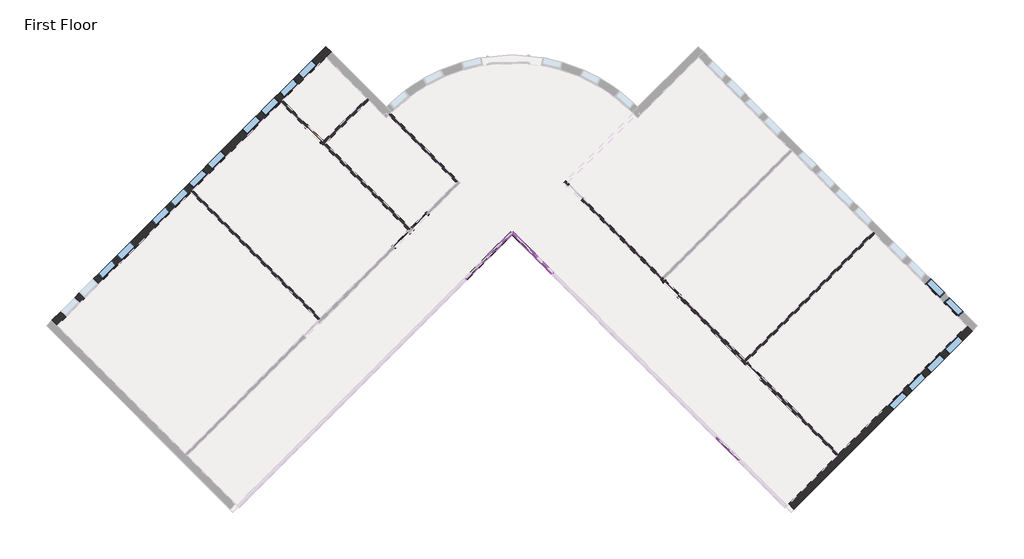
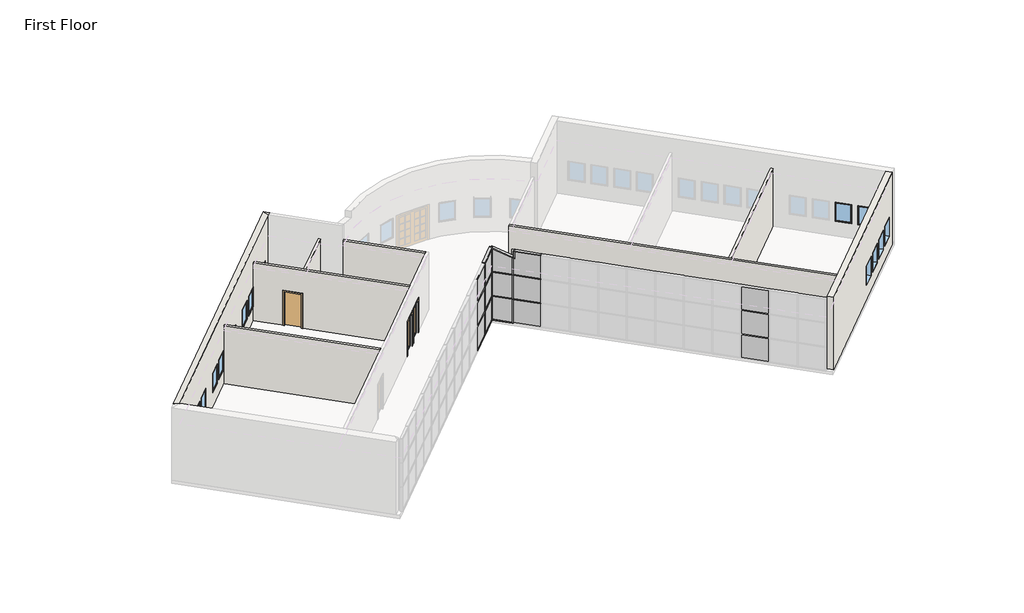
# One storey, part 3 of 4: 26 members, 16 windows, 15 plates, 8 walls, 5 doors.
"""IFC4 building model written with IfcOpenShell, lengths in millimetres."""

from ifc_helpers import new_model, si_unit, point, frame_2d, origin, origin_with_axes, place, context, project, spatial, polyline, circle_curve, trimmed, segment, composite_curve, outline, extrude, faceted_brep, transform, mapped, element, save
from components import m_single_flush_0915_x_2134mm_83e8e835, m_single_glass_1_0915_x_2134mm_fb3287b7, m_single_glass_1_0915_x_2134mm_4e5e1233, rectangular_mullion_50_x_150mm_20f04808, rectangular_mullion_50_x_150mm_40297ad3, rectangular_mullion_50_x_150mm_25842354, rectangular_mullion_50_x_150mm_f494fff1, rectangular_mullion_50_x_150mm_2bb03180, rectangular_mullion_50_x_150mm_5da8f88f, rectangular_mullion_50_x_150mm_a88ac5a8, rectangular_mullion_50_x_150mm_4d330a12, rectangular_mullion_50_x_150mm_0b48c596, rectangular_mullion_50_x_150mm_c3f78bae, rectangular_mullion_50_x_150mm_4f5b6fb6, rectangular_mullion_50_x_150mm_1a5d4ec7, rectangular_mullion_50_x_150mm_d2079c38, rectangular_mullion_50_x_150mm_e2de7342, system_panel_glazed_3c3c243d, system_panel_glazed_a417ca2b, system_panel_glazed_437d720c, system_panel_glazed_7c4ff273, system_panel_glazed_1065fb32, system_panel_glazed_85fb0d8e, system_panel_solid_49e066f7, system_panel_solid_a570f427, system_panel_solid_e7212ce5, system_panel_solid_7245e66f, m_fixed_0915_x_1220mm_bde29121, m_fixed_0915_x_1220mm_2a2509e7

model = new_model("IFC4")

# Units and contexts
model_context = context("Model", 3, world=origin())
ifc_project = project(units=[si_unit("LENGTHUNIT", "METRE", prefix="MILLI")], contexts=[model_context])

# Site, building, storey
site = spatial("IfcSite", under=ifc_project)
building = spatial("IfcBuilding", under=site)
storey = spatial("IfcBuildingStorey", under=building, Name="First Floor", Elevation=0.0)

# Doors
placement = place(None, origin())
m_single_flush_0915_x_2134mm_shape = m_single_flush_0915_x_2134mm_83e8e835(model_context)
element("IfcDoor", 1, ObjectType="M_Single-Flush : 0915 x 2134mm", at=placement, inside=storey, context=model_context, shape_type="MappedRepresentation", body=[
    mapped(m_single_flush_0915_x_2134mm_shape, transform((-10762.6979297, 6563.7995594, 0.0), x_axis=(0.7071067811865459, -0.7071067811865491, 0.0), y_axis=(0.7071067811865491, 0.7071067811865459, 0.0), z_axis=(0.0, 0.0, 1.0))),
])
m_single_glass_1_0915_x_2134mm_shape = m_single_glass_1_0915_x_2134mm_fb3287b7(model_context)
element("IfcDoor", 2, ObjectType="M_Single-Glass 1 : 0915 x 2134mm", at=placement, inside=storey, context=model_context, shape_type="MappedRepresentation", body=[
    mapped(m_single_glass_1_0915_x_2134mm_shape, transform((-6731.4821701, 1669.9135268, 0.0), x_axis=(0.7071067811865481, 0.7071067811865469, 0.0), y_axis=(-0.7071067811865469, 0.7071067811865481, 0.0), z_axis=(0.0, 0.0, 1.0))),
])
m_single_glass_1_0915_x_2134mm_2_shape = m_single_glass_1_0915_x_2134mm_4e5e1233(model_context)
element("IfcDoor", 3, ObjectType="M_Single-Glass 1 : 0915 x 2134mm", at=placement, inside=storey, context=model_context, shape_type="MappedRepresentation", body=[
    mapped(m_single_glass_1_0915_x_2134mm_2_shape, transform((-5868.8118971, 2532.5837999, 0.0), x_axis=(-0.7071067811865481, -0.7071067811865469, 0.0), y_axis=(0.7071067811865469, -0.7071067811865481, 0.0), z_axis=(0.0, 0.0, 1.0))),
])
element("IfcDoor", 4, ObjectType="M_Single-Glass 1 : 0915 x 2134mm", at=placement, inside=storey, context=model_context, shape_type="MappedRepresentation", body=[
    mapped(m_single_glass_1_0915_x_2134mm_2_shape, transform((5790.8485946, -591.9442895, 0.0), x_axis=(-0.7071067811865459, 0.7071067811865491, 0.0), y_axis=(-0.7071067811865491, -0.7071067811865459, 0.0), z_axis=(0.0, 0.0, 1.0))),
])
element("IfcDoor", 5, ObjectType="M_Single-Glass 1 : 0915 x 2134mm", at=placement, inside=storey, context=model_context, shape_type="MappedRepresentation", body=[
    mapped(m_single_glass_1_0915_x_2134mm_2_shape, transform((9606.3967859, -4407.4924808, 0.0), x_axis=(-0.7071067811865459, 0.7071067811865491, 0.0), y_axis=(-0.7071067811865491, -0.7071067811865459, 0.0), z_axis=(0.0, 0.0, 1.0))),
])

# Members
rectangular_mullion_50_x_150mm_shape = rectangular_mullion_50_x_150mm_20f04808(model_context)
element("IfcMember", 6, ObjectType="Rectangular Mullion : 50 x 150mm", at=placement, inside=storey, context=model_context, shape_type="MappedRepresentation", body=[
    mapped(rectangular_mullion_50_x_150mm_shape, transform((-1636.601035, 1959.296977, 0.0), x_axis=(0.0, 0.0, -1.0), y_axis=(-0.7071067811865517, 0.7071067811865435, 0.0), z_axis=(0.7071067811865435, 0.7071067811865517, 0.0))),
])
rectangular_mullion_50_x_150mm_2_shape = rectangular_mullion_50_x_150mm_40297ad3(model_context)
element("IfcMember", 7, ObjectType="Rectangular Mullion : 50 x 150mm", at=placement, inside=storey, context=model_context, shape_type="MappedRepresentation", body=[
    mapped(rectangular_mullion_50_x_150mm_2_shape, transform((-2678.8764307, 917.0215813, 0.0), x_axis=(-0.7071067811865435, -0.7071067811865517, 0.0), y_axis=(-0.7071067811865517, 0.7071067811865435, 0.0), z_axis=(0.0, 0.0, -1.0))),
])
element("IfcMember", 8, ObjectType="Rectangular Mullion : 50 x 150mm", at=placement, inside=storey, context=model_context, shape_type="MappedRepresentation", body=[
    mapped(rectangular_mullion_50_x_150mm_2_shape, transform((-771.102335, 1164.5089552, 0.0), x_axis=(-0.7071067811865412, 0.7071067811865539, 0.0), y_axis=(0.7071067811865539, 0.7071067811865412, 0.0), z_axis=(0.0, 0.0, -1.0))),
])
rectangular_mullion_50_x_150mm_3_shape = rectangular_mullion_50_x_150mm_25842354(model_context)
element("IfcMember", 9, ObjectType="Rectangular Mullion : 50 x 150mm", at=placement, inside=storey, context=model_context, shape_type="MappedRepresentation", body=[
    mapped(rectangular_mullion_50_x_150mm_3_shape, transform((-2661.1987611, 934.6992509, 1524.0), x_axis=(0.0, 0.0, 1.0), y_axis=(-0.7071067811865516, 0.7071067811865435, 0.0), z_axis=(-0.7071067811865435, -0.7071067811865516, 0.0))),
])
element("IfcMember", 10, ObjectType="Rectangular Mullion : 50 x 150mm", at=placement, inside=storey, context=model_context, shape_type="MappedRepresentation", body=[
    mapped(rectangular_mullion_50_x_150mm_3_shape, transform((-2661.1987611, 934.6992509, 3048.0), x_axis=(0.0, 0.0, 1.0), y_axis=(-0.7071067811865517, 0.7071067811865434, 0.0), z_axis=(-0.7071067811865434, -0.7071067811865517, 0.0))),
])
rectangular_mullion_50_x_150mm_4_shape = rectangular_mullion_50_x_150mm_f494fff1(model_context)
element("IfcMember", 11, ObjectType="Rectangular Mullion : 50 x 150mm", at=placement, inside=storey, context=model_context, shape_type="MappedRepresentation", body=[
    mapped(rectangular_mullion_50_x_150mm_4_shape, transform((-753.4246655, 1146.8312856, 1524.0), x_axis=(0.0, 0.0, 1.0), y_axis=(0.7071067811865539, 0.7071067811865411, 0.0), z_axis=(-0.7071067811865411, 0.7071067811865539, 0.0))),
])
element("IfcMember", 12, ObjectType="Rectangular Mullion : 50 x 150mm", at=placement, inside=storey, context=model_context, shape_type="MappedRepresentation", body=[
    mapped(rectangular_mullion_50_x_150mm_4_shape, transform((-753.4246655, 1146.8312856, 3048.0), x_axis=(0.0, 0.0, 1.0), y_axis=(0.7071067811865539, 0.7071067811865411, 0.0), z_axis=(-0.7071067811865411, 0.7071067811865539, 0.0))),
])
rectangular_mullion_50_x_150mm_5_shape = rectangular_mullion_50_x_150mm_2bb03180(model_context)
element("IfcMember", 13, ObjectType="Rectangular Mullion : 50 x 150mm", at=placement, inside=storey, context=model_context, shape_type="MappedRepresentation", body=[
    mapped(rectangular_mullion_50_x_150mm_5_shape, transform((-1565.8903569, 1959.296977, 1524.0), x_axis=(0.0, 0.0, 1.0), y_axis=(0.707106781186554, 0.707106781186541, 0.0), z_axis=(-0.707106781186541, 0.707106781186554, 0.0))),
])
element("IfcMember", 14, ObjectType="Rectangular Mullion : 50 x 150mm", at=placement, inside=storey, context=model_context, shape_type="MappedRepresentation", body=[
    mapped(rectangular_mullion_50_x_150mm_5_shape, transform((-1565.8903569, 1959.296977, 3048.0), x_axis=(0.0, 0.0, 1.0), y_axis=(0.707106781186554, 0.707106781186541, 0.0), z_axis=(-0.707106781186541, 0.707106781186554, 0.0))),
])
rectangular_mullion_50_x_150mm_6_shape = rectangular_mullion_50_x_150mm_5da8f88f(model_context)
element("IfcMember", 15, ObjectType="Rectangular Mullion : 50 x 150mm", at=placement, inside=storey, context=model_context, shape_type="MappedRepresentation", body=[
    mapped(rectangular_mullion_50_x_150mm_6_shape, transform((-2696.5541002, 899.3439118, 0.0), x_axis=(0.0, 0.0, -1.0), y_axis=(-0.7071067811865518, 0.7071067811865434, 0.0), z_axis=(0.7071067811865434, 0.7071067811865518, 0.0))),
])
rectangular_mullion_50_x_150mm_7_shape = rectangular_mullion_50_x_150mm_a88ac5a8(model_context)
element("IfcMember", 16, ObjectType="Rectangular Mullion : 50 x 150mm", at=placement, inside=storey, context=model_context, shape_type="MappedRepresentation", body=[
    mapped(rectangular_mullion_50_x_150mm_7_shape, transform((-788.7800045, 1182.1866247, 0.0), x_axis=(0.0, 0.0, -1.0), y_axis=(0.707106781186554, 0.7071067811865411, 0.0), z_axis=(0.707106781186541, -0.7071067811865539, 0.0))),
])
element("IfcMember", 17, ObjectType="Rectangular Mullion : 50 x 150mm", at=placement, inside=storey, context=model_context, shape_type="MappedRepresentation", body=[
    mapped(rectangular_mullion_50_x_150mm_shape, transform((-2661.1987611, 934.6992509, 4572.0), x_axis=(0.0, 0.0, 1.0), y_axis=(-0.7071067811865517, 0.7071067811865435, 0.0), z_axis=(-0.7071067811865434, -0.7071067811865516, 0.0))),
])
element("IfcMember", 18, ObjectType="Rectangular Mullion : 50 x 150mm", at=placement, inside=storey, context=model_context, shape_type="MappedRepresentation", body=[
    mapped(rectangular_mullion_50_x_150mm_2_shape, transform((-2678.8764307, 917.0215813, 1524.0), x_axis=(-0.7071067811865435, -0.7071067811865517, 0.0), y_axis=(-0.7071067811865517, 0.7071067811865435, 0.0), z_axis=(0.0, 0.0, -1.0))),
])
element("IfcMember", 19, ObjectType="Rectangular Mullion : 50 x 150mm", at=placement, inside=storey, context=model_context, shape_type="MappedRepresentation", body=[
    mapped(rectangular_mullion_50_x_150mm_2_shape, transform((-771.102335, 1164.5089552, 1524.0), x_axis=(-0.7071067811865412, 0.7071067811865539, 0.0), y_axis=(0.7071067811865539, 0.7071067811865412, 0.0), z_axis=(0.0, 0.0, -1.0))),
])
element("IfcMember", 20, ObjectType="Rectangular Mullion : 50 x 150mm", at=placement, inside=storey, context=model_context, shape_type="MappedRepresentation", body=[
    mapped(rectangular_mullion_50_x_150mm_2_shape, transform((-2678.8764307, 917.0215813, 3048.0), x_axis=(-0.7071067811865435, -0.7071067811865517, 0.0), y_axis=(-0.7071067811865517, 0.7071067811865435, 0.0), z_axis=(0.0, 0.0, -1.0))),
])
rectangular_mullion_50_x_150mm_8_shape = rectangular_mullion_50_x_150mm_4d330a12(model_context)
element("IfcMember", 21, ObjectType="Rectangular Mullion : 50 x 150mm", at=placement, inside=storey, context=model_context, shape_type="MappedRepresentation", body=[
    mapped(rectangular_mullion_50_x_150mm_8_shape, transform((-1601.2456959, 1994.6523161, 4572.0), x_axis=(0.7071067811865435, 0.7071067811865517, 0.0), y_axis=(-0.7071067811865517, 0.7071067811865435, 0.0), z_axis=(0.0, 0.0, 1.0))),
])
element("IfcMember", 22, ObjectType="Rectangular Mullion : 50 x 150mm", at=placement, inside=storey, context=model_context, shape_type="MappedRepresentation", body=[
    mapped(rectangular_mullion_50_x_150mm_8_shape, transform((-1601.2456959, 1994.6523161, 0.0), x_axis=(-0.7071067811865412, 0.7071067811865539, 0.0), y_axis=(0.7071067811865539, 0.7071067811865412, 0.0), z_axis=(0.0, 0.0, -1.0))),
])
element("IfcMember", 23, ObjectType="Rectangular Mullion : 50 x 150mm", at=placement, inside=storey, context=model_context, shape_type="MappedRepresentation", body=[
    mapped(rectangular_mullion_50_x_150mm_8_shape, transform((-1601.2456959, 1994.6523161, 1524.0), x_axis=(-0.7071067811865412, 0.7071067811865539, 0.0), y_axis=(0.7071067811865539, 0.7071067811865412, 0.0), z_axis=(0.0, 0.0, -1.0))),
])
element("IfcMember", 24, ObjectType="Rectangular Mullion : 50 x 150mm", at=placement, inside=storey, context=model_context, shape_type="MappedRepresentation", body=[
    mapped(rectangular_mullion_50_x_150mm_8_shape, transform((-1601.2456959, 1994.6523161, 1524.0), x_axis=(0.7071067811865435, 0.7071067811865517, 0.0), y_axis=(-0.7071067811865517, 0.7071067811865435, 0.0), z_axis=(0.0, 0.0, 1.0))),
])
element("IfcMember", 25, ObjectType="Rectangular Mullion : 50 x 150mm", at=placement, inside=storey, context=model_context, shape_type="MappedRepresentation", body=[
    mapped(rectangular_mullion_50_x_150mm_8_shape, transform((-1601.2456959, 1994.6523161, 3048.0), x_axis=(0.7071067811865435, 0.7071067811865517, 0.0), y_axis=(-0.7071067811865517, 0.7071067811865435, 0.0), z_axis=(0.0, 0.0, 1.0))),
])
rectangular_mullion_50_x_150mm_9_shape = rectangular_mullion_50_x_150mm_0b48c596(model_context)
element("IfcMember", 26, ObjectType="Rectangular Mullion : 50 x 150mm", at=placement, inside=storey, context=model_context, shape_type="MappedRepresentation", body=[
    mapped(rectangular_mullion_50_x_150mm_9_shape, transform((-703.2200838, 1096.626704, 4572.0), x_axis=(0.0, 0.0, 1.0), y_axis=(0.7071067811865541, 0.7071067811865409, 0.0), z_axis=(-0.7071067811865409, 0.7071067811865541, 0.0))),
])
rectangular_mullion_50_x_150mm_10_shape = rectangular_mullion_50_x_150mm_c3f78bae(model_context)
element("IfcMember", 27, ObjectType="Rectangular Mullion : 50 x 150mm", at=placement, inside=storey, context=model_context, shape_type="MappedRepresentation", body=[
    mapped(rectangular_mullion_50_x_150mm_10_shape, transform((-738.5754229, 1131.982043, 4164.7405634), x_axis=(-0.7071067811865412, 0.7071067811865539, 0.0), y_axis=(0.7071067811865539, 0.7071067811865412, 0.0), z_axis=(0.0, 0.0, -1.0))),
])
rectangular_mullion_50_x_150mm_11_shape = rectangular_mullion_50_x_150mm_4f5b6fb6(model_context)
element("IfcMember", 28, ObjectType="Rectangular Mullion : 50 x 150mm", at=placement, inside=storey, context=model_context, shape_type="MappedRepresentation", body=[
    mapped(rectangular_mullion_50_x_150mm_11_shape, transform((-1601.2456959, 1994.6523161, 4572.0), x_axis=(0.22390007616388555, -0.22390007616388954, 0.9485449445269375), y_axis=(0.7071067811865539, 0.7071067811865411, 0.0), z_axis=(-0.6707225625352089, 0.6707225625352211, 0.3166425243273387))),
])
rectangular_mullion_50_x_150mm_12_shape = rectangular_mullion_50_x_150mm_1a5d4ec7(model_context)
element("IfcMember", 29, ObjectType="Rectangular Mullion : 50 x 150mm", at=placement, inside=storey, context=model_context, shape_type="MappedRepresentation", body=[
    mapped(rectangular_mullion_50_x_150mm_12_shape, transform((-771.102335, 1164.5089552, 4180.0962472), x_axis=(0.22390007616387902, -0.22390007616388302, 0.9485449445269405), y_axis=(0.7071067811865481, 0.7071067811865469, 0.0), z_axis=(-0.6707225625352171, 0.6707225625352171, 0.3166425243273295))),
])
rectangular_mullion_50_x_150mm_13_shape = rectangular_mullion_50_x_150mm_d2079c38(model_context)
element("IfcMember", 30, ObjectType="Rectangular Mullion : 50 x 150mm", at=placement, inside=storey, context=model_context, shape_type="MappedRepresentation", body=[
    mapped(rectangular_mullion_50_x_150mm_13_shape, transform((-771.102335, 1164.5089552, 3048.0), x_axis=(-0.7071067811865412, 0.7071067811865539, 0.0), y_axis=(0.7071067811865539, 0.7071067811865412, 0.0), z_axis=(0.0, 0.0, -1.0))),
])
rectangular_mullion_50_x_150mm_14_shape = rectangular_mullion_50_x_150mm_e2de7342(model_context)
element("IfcMember", 31, ObjectType="Rectangular Mullion : 50 x 150mm", at=placement, inside=storey, context=model_context, shape_type="MappedRepresentation", body=[
    mapped(rectangular_mullion_50_x_150mm_14_shape, transform((-1601.2456959, 1994.6523161, 3048.0), x_axis=(-0.7071067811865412, 0.7071067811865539, 0.0), y_axis=(0.7071067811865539, 0.7071067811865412, 0.0), z_axis=(0.0, 0.0, -1.0))),
])

# Plates
system_panel_glazed_shape = system_panel_glazed_3c3c243d(model_context)
element("IfcPlate", 32, ObjectType="System Panel : Glazed", at=placement, inside=storey, context=model_context, shape_type="MappedRepresentation", body=[
    mapped(system_panel_glazed_shape, transform((-2148.899898, 1446.9981139, 50.0), x_axis=(-0.7071067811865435, -0.7071067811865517, 0.0), y_axis=(0.7071067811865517, -0.7071067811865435, 0.0), z_axis=(0.0, 0.0, 1.0))),
])
system_panel_glazed_2_shape = system_panel_glazed_a417ca2b(model_context)
element("IfcPlate", 33, ObjectType="System Panel : Glazed", at=placement, inside=storey, context=model_context, shape_type="MappedRepresentation", body=[
    mapped(system_panel_glazed_2_shape, transform((8388.7589085, -7995.3522883, 50.0), x_axis=(-0.7071067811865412, 0.7071067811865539, 0.0), y_axis=(-0.7071067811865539, -0.7071067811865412, 0.0), z_axis=(0.0, 0.0, 1.0))),
])
element("IfcPlate", 34, ObjectType="System Panel : Glazed", at=placement, inside=storey, context=model_context, shape_type="MappedRepresentation", body=[
    mapped(system_panel_glazed_2_shape, transform((-3217.6917979, 378.2062141, 50.0), x_axis=(-0.7071067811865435, -0.7071067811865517, 0.0), y_axis=(0.7071067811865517, -0.7071067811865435, 0.0), z_axis=(0.0, 0.0, 1.0))),
])
element("IfcPlate", 35, ObjectType="System Panel : Glazed", at=placement, inside=storey, context=model_context, shape_type="MappedRepresentation", body=[
    mapped(system_panel_glazed_2_shape, transform((-232.2869677, 625.6935879, 50.0), x_axis=(-0.7071067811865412, 0.7071067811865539, 0.0), y_axis=(-0.7071067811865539, -0.7071067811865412, 0.0), z_axis=(0.0, 0.0, 1.0))),
])
system_panel_glazed_3_shape = system_panel_glazed_437d720c(model_context)
element("IfcPlate", 36, ObjectType="System Panel : Glazed", at=placement, inside=storey, context=model_context, shape_type="MappedRepresentation", body=[
    mapped(system_panel_glazed_3_shape, transform((-2148.899898, 1446.9981139, 1549.0), x_axis=(-0.7071067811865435, -0.7071067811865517, 0.0), y_axis=(0.7071067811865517, -0.7071067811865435, 0.0), z_axis=(0.0, 0.0, 1.0))),
])
system_panel_glazed_4_shape = system_panel_glazed_7c4ff273(model_context)
element("IfcPlate", 37, ObjectType="System Panel : Glazed", at=placement, inside=storey, context=model_context, shape_type="MappedRepresentation", body=[
    mapped(system_panel_glazed_4_shape, transform((8388.7589085, -7995.3522883, 1549.0), x_axis=(-0.7071067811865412, 0.7071067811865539, 0.0), y_axis=(-0.7071067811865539, -0.7071067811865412, 0.0), z_axis=(0.0, 0.0, 1.0))),
])
element("IfcPlate", 38, ObjectType="System Panel : Glazed", at=placement, inside=storey, context=model_context, shape_type="MappedRepresentation", body=[
    mapped(system_panel_glazed_4_shape, transform((-3217.6917979, 378.2062141, 1549.0), x_axis=(-0.7071067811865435, -0.7071067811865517, 0.0), y_axis=(0.7071067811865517, -0.7071067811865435, 0.0), z_axis=(0.0, 0.0, 1.0))),
])
element("IfcPlate", 39, ObjectType="System Panel : Glazed", at=placement, inside=storey, context=model_context, shape_type="MappedRepresentation", body=[
    mapped(system_panel_glazed_4_shape, transform((-232.2869677, 625.6935879, 1549.0), x_axis=(-0.7071067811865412, 0.7071067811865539, 0.0), y_axis=(-0.7071067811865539, -0.7071067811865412, 0.0), z_axis=(0.0, 0.0, 1.0))),
])
system_panel_glazed_5_shape = system_panel_glazed_1065fb32(model_context)
element("IfcPlate", 40, ObjectType="System Panel : Glazed", at=placement, inside=storey, context=model_context, shape_type="MappedRepresentation", body=[
    mapped(system_panel_glazed_5_shape, transform((-1177.3351807, 1570.7418009, 50.0), x_axis=(-0.7071067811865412, 0.7071067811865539, 0.0), y_axis=(-0.7071067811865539, -0.7071067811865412, 0.0), z_axis=(0.0, 0.0, 1.0))),
])
system_panel_glazed_6_shape = system_panel_glazed_85fb0d8e(model_context)
element("IfcPlate", 41, ObjectType="System Panel : Glazed", at=placement, inside=storey, context=model_context, shape_type="MappedRepresentation", body=[
    mapped(system_panel_glazed_6_shape, transform((-1177.3351807, 1570.7418009, 1549.0), x_axis=(-0.7071067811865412, 0.7071067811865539, 0.0), y_axis=(-0.7071067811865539, -0.7071067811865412, 0.0), z_axis=(0.0, 0.0, 1.0))),
])
system_panel_solid_shape = system_panel_solid_49e066f7(model_context)
element("IfcPlate", 42, ObjectType="System Panel : Solid", at=placement, inside=storey, context=model_context, shape_type="MappedRepresentation", body=[
    mapped(system_panel_solid_shape, transform((-2148.899898, 1446.9981139, 3073.0), x_axis=(-0.7071067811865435, -0.7071067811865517, 0.0), y_axis=(0.7071067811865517, -0.7071067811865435, 0.0), z_axis=(0.0, 0.0, 1.0))),
])
system_panel_solid_2_shape = system_panel_solid_a570f427(model_context)
element("IfcPlate", 43, ObjectType="System Panel : Solid", at=placement, inside=storey, context=model_context, shape_type="MappedRepresentation", body=[
    mapped(system_panel_solid_2_shape, transform((8388.7589085, -7995.3522883, 3073.0), x_axis=(-0.7071067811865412, 0.7071067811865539, 0.0), y_axis=(-0.7071067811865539, -0.7071067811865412, 0.0), z_axis=(0.0, 0.0, 1.0))),
])
element("IfcPlate", 44, ObjectType="System Panel : Solid", at=placement, inside=storey, context=model_context, shape_type="MappedRepresentation", body=[
    mapped(system_panel_solid_2_shape, transform((-3217.6917979, 378.2062141, 3073.0), x_axis=(-0.7071067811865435, -0.7071067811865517, 0.0), y_axis=(0.7071067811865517, -0.7071067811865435, 0.0), z_axis=(0.0, 0.0, 1.0))),
])
system_panel_solid_3_shape = system_panel_solid_e7212ce5(model_context)
element("IfcPlate", 45, ObjectType="System Panel : Solid", at=placement, inside=storey, context=model_context, shape_type="MappedRepresentation", body=[
    mapped(system_panel_solid_3_shape, transform((-232.2869677, 625.6935879, 3073.0), x_axis=(-0.7071067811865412, 0.7071067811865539, 0.0), y_axis=(-0.7071067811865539, -0.7071067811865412, 0.0), z_axis=(0.0, 0.0, 1.0))),
])
system_panel_solid_4_shape = system_panel_solid_7245e66f(model_context)
element("IfcPlate", 46, ObjectType="System Panel : Solid", at=placement, inside=storey, context=model_context, shape_type="MappedRepresentation", body=[
    mapped(system_panel_solid_4_shape, transform((-1177.3351807, 1570.7418009, 3073.0), x_axis=(-0.7071067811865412, 0.7071067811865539, 0.0), y_axis=(-0.7071067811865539, -0.7071067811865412, 0.0), z_axis=(0.0, 0.0, 1.0))),
])

# Walls
element("IfcWall", 47, ObjectType="Exterior - Brick on Mtl. Stud", at=placement, inside=storey, context=model_context, shape_type="Brep", body=[
    faceted_brep([(19456.3942478, -2315.870622, 0.0), (13534.5517321, -8237.7131378, 0.0), (13436.6174429, -8335.647427, 0.0), (11206.5794317, -10565.6854381, 0.0), (11206.5794317, -10565.6854381, 4572.0), (19456.3942478, -2315.870622, 4572.0), (16455.7866219, -5316.478248, 915.0), (16455.7866219, -5316.478248, 2135.0), (15808.7839171, -5963.4809528, 2135.0), (15808.7839171, -5963.4809528, 915.0), (17317.7497881, -4454.5150817, 915.0), (17317.7497881, -4454.5150817, 2135.0), (16670.7470833, -5101.5177865, 2135.0), (16670.7470833, -5101.5177865, 915.0), (18179.7129544, -3592.5519155, 915.0), (18179.7129544, -3592.5519155, 2135.0), (17532.7102496, -4239.5546203, 2135.0), (17532.7102496, -4239.5546203, 915.0), (19041.6761207, -2730.5887492, 915.0), (19041.6761207, -2730.5887492, 2135.0), (18394.6734159, -3377.591454, 2135.0), (18394.6734159, -3377.591454, 915.0), (19703.8816212, -2563.3579955, 0.0), (19703.8816212, -2563.3579955, 4572.0), (11454.0668051, -10813.1728116, 4572.0), (11454.0668051, -10813.1728116, 0.0), (16703.2739953, -5563.9656214, 915.0), (16056.2712905, -6210.9683262, 915.0), (16056.2712905, -6210.9683262, 2135.0), (16703.2739953, -5563.9656214, 2135.0), (17565.2371615, -4702.0024552, 915.0), (16918.2344568, -5349.0051599, 915.0), (16918.2344568, -5349.0051599, 2135.0), (17565.2371615, -4702.0024552, 2135.0), (18427.2003278, -3840.0392889, 915.0), (17780.197623, -4487.0419937, 915.0), (17780.197623, -4487.0419937, 2135.0), (18427.2003278, -3840.0392889, 2135.0), (19289.1634941, -2978.0761226, 915.0), (18642.1607893, -3625.0788274, 915.0), (18642.1607893, -3625.0788274, 2135.0), (19289.1634941, -2978.0761226, 2135.0)], [[[0, 1, 2, 3, 4, 5], [6, 7, 8, 9], [10, 11, 12, 13], [14, 15, 16, 17], [18, 19, 20, 21]], [[22, 23, 24, 25], [26, 27, 28, 29], [30, 31, 32, 33], [34, 35, 36, 37], [38, 39, 40, 41]], [[3, 2, 1, 0, 22, 25]], [[4, 3, 25, 24]], [[5, 4, 24, 23]], [[0, 5, 23, 22]], [[7, 6, 26, 29]], [[8, 7, 29, 28]], [[9, 8, 28, 27]], [[6, 9, 27, 26]], [[11, 10, 30, 33]], [[12, 11, 33, 32]], [[13, 12, 32, 31]], [[10, 13, 31, 30]], [[15, 14, 34, 37]], [[16, 15, 37, 36]], [[17, 16, 36, 35]], [[14, 17, 35, 34]], [[19, 18, 38, 41]], [[20, 19, 41, 40]], [[21, 20, 40, 39]], [[18, 21, 39, 38]]]),
])
element("IfcWall", 48, ObjectType="Exterior - Brick on Mtl. Stud", at=placement, inside=storey, context=model_context, shape_type="Brep", body=[
    faceted_brep([(-22658.8856396, -2315.870622, 0.0), (-16473.6458479, 3869.3691697, 0.0), (-16375.7115587, 3967.3034589, 0.0), (-12319.9238385, 8023.0911791, 0.0), (-12221.9895493, 8121.0254683, 0.0), (-10222.2915721, 10120.7234455, 0.0), (-9974.8041987, 10368.2108189, 0.0), (-9974.8041987, 10368.2108189, 4572.0), (-10222.2915721, 10120.7234455, 4688.8367236), (-22658.8856396, -2315.870622, 4688.8367236), (-21597.1648077, -1254.1497901, 915.0), (-22244.1675125, -1901.1524949, 915.0), (-22244.1675125, -1901.1524949, 2135.0), (-21597.1648077, -1254.1497901, 2135.0), (-20735.2016414, -392.1866238, 915.0), (-21382.2043462, -1039.1893286, 915.0), (-21382.2043462, -1039.1893286, 2135.0), (-20735.2016414, -392.1866238, 2135.0), (-19011.2753089, 1331.7397087, 915.0), (-19658.2780137, 684.7370039, 915.0), (-19658.2780137, 684.7370039, 2135.0), (-19011.2753089, 1331.7397087, 2135.0), (-19873.2384752, 469.7765424, 915.0), (-20520.2411799, -177.2261623, 915.0), (-20520.2411799, -177.2261623, 2135.0), (-19873.2384752, 469.7765424, 2135.0), (-13838.0820977, 6504.9329199, 915.0), (-13838.0820977, 6504.9329199, 2135.0), (-13191.0793929, 7151.9356247, 2135.0), (-13191.0793929, 7151.9356247, 915.0), (-12976.1189315, 7366.8960861, 915.0), (-12976.1189315, 7366.8960861, 2135.0), (-12329.1162267, 8013.8987909, 2135.0), (-12329.1162267, 8013.8987909, 915.0), (-12114.1557652, 8228.8592524, 915.0), (-12114.1557652, 8228.8592524, 2135.0), (-11467.1530604, 8875.8619572, 2135.0), (-11467.1530604, 8875.8619572, 915.0), (-11252.1925989, 9090.8224187, 915.0), (-11252.1925989, 9090.8224187, 2135.0), (-10605.1898941, 9737.8251235, 2135.0), (-10605.1898941, 9737.8251235, 915.0), (-14808.2326015, 5534.7824161, 915.0), (-15455.2353063, 4887.7797113, 915.0), (-15455.2353063, 4887.7797113, 2135.0), (-14808.2326015, 5534.7824161, 2135.0), (-15670.1957678, 4672.8192498, 915.0), (-16317.1984726, 4025.816545, 915.0), (-16317.1984726, 4025.816545, 2135.0), (-15670.1957678, 4672.8192498, 2135.0), (-16532.1589341, 3810.8560836, 915.0), (-17179.1616388, 3163.8533788, 915.0), (-17179.1616388, 3163.8533788, 2135.0), (-16532.1589341, 3810.8560836, 2135.0), (-17394.1221003, 2948.8929173, 915.0), (-18041.1248051, 2301.8902125, 915.0), (-18041.1248051, 2301.8902125, 2135.0), (-17394.1221003, 2948.8929173, 2135.0), (-22906.3730131, -2068.3832486, 0.0), (-22906.3730131, -2068.3832486, 4572.0), (-10222.2915721, 10615.6981923, 4572.0), (-10222.2915721, 10615.6981923, 0.0), (-21844.6521811, -1006.6624167, 915.0), (-21844.6521811, -1006.6624167, 2135.0), (-22491.6548859, -1653.6651215, 2135.0), (-22491.6548859, -1653.6651215, 915.0), (-20982.6890148, -144.6992504, 915.0), (-20982.6890148, -144.6992504, 2135.0), (-21629.6917196, -791.7019552, 2135.0), (-21629.6917196, -791.7019552, 915.0), (-19258.7626823, 1579.2270821, 915.0), (-19258.7626823, 1579.2270821, 2135.0), (-19905.7653871, 932.2243773, 2135.0), (-19905.7653871, 932.2243773, 915.0), (-20120.7258486, 717.2639159, 915.0), (-20120.7258486, 717.2639159, 2135.0), (-20767.7285534, 70.2612111, 2135.0), (-20767.7285534, 70.2612111, 915.0), (-14085.5694711, 6752.4202933, 915.0), (-13438.5667664, 7399.4229981, 915.0), (-13438.5667664, 7399.4229981, 2135.0), (-14085.5694711, 6752.4202933, 2135.0), (-13223.6063049, 7614.3834596, 915.0), (-12576.6036001, 8261.3861643, 915.0), (-12576.6036001, 8261.3861643, 2135.0), (-13223.6063049, 7614.3834596, 2135.0), (-12361.6431386, 8476.3466258, 915.0), (-11714.6404338, 9123.3493306, 915.0), (-11714.6404338, 9123.3493306, 2135.0), (-12361.6431386, 8476.3466258, 2135.0), (-11499.6799723, 9338.3097921, 915.0), (-10852.6772676, 9985.3124969, 915.0), (-10852.6772676, 9985.3124969, 2135.0), (-11499.6799723, 9338.3097921, 2135.0), (-15055.7199749, 5782.2697895, 915.0), (-15055.7199749, 5782.2697895, 2135.0), (-15702.7226797, 5135.2670847, 2135.0), (-15702.7226797, 5135.2670847, 915.0), (-15917.6831412, 4920.3066232, 915.0), (-15917.6831412, 4920.3066232, 2135.0), (-16564.685846, 4273.3039184, 2135.0), (-16564.685846, 4273.3039184, 915.0), (-16779.6463075, 4058.343457, 915.0), (-16779.6463075, 4058.343457, 2135.0), (-17426.6490123, 3411.3407522, 2135.0), (-17426.6490123, 3411.3407522, 915.0), (-17641.6094737, 3196.3802907, 915.0), (-17641.6094737, 3196.3802907, 2135.0), (-18288.6121785, 2549.3775859, 2135.0), (-18288.6121785, 2549.3775859, 915.0)], [[[0, 1, 2, 3, 4, 5, 6, 7, 8, 9], [10, 11, 12, 13], [14, 15, 16, 17], [18, 19, 20, 21], [22, 23, 24, 25], [26, 27, 28, 29], [30, 31, 32, 33], [34, 35, 36, 37], [38, 39, 40, 41], [42, 43, 44, 45], [46, 47, 48, 49], [50, 51, 52, 53], [54, 55, 56, 57]], [[58, 59, 60, 61], [62, 63, 64, 65], [66, 67, 68, 69], [70, 71, 72, 73], [74, 75, 76, 77], [78, 79, 80, 81], [82, 83, 84, 85], [86, 87, 88, 89], [90, 91, 92, 93], [94, 95, 96, 97], [98, 99, 100, 101], [102, 103, 104, 105], [106, 107, 108, 109]], [[0, 9, 59, 58]], [[7, 6, 61, 60]], [[63, 62, 10, 13]], [[64, 63, 13, 12]], [[65, 64, 12, 11]], [[62, 65, 11, 10]], [[67, 66, 14, 17]], [[68, 67, 17, 16]], [[69, 68, 16, 15]], [[66, 69, 15, 14]], [[71, 70, 18, 21]], [[72, 71, 21, 20]], [[73, 72, 20, 19]], [[70, 73, 19, 18]], [[75, 74, 22, 25]], [[76, 75, 25, 24]], [[77, 76, 24, 23]], [[74, 77, 23, 22]], [[27, 26, 78, 81]], [[28, 27, 81, 80]], [[29, 28, 80, 79]], [[26, 29, 79, 78]], [[31, 30, 82, 85]], [[32, 31, 85, 84]], [[33, 32, 84, 83]], [[30, 33, 83, 82]], [[35, 34, 86, 89]], [[36, 35, 89, 88]], [[37, 36, 88, 87]], [[34, 37, 87, 86]], [[39, 38, 90, 93]], [[40, 39, 93, 92]], [[41, 40, 92, 91]], [[38, 41, 91, 90]], [[95, 94, 42, 45]], [[96, 95, 45, 44]], [[97, 96, 44, 43]], [[94, 97, 43, 42]], [[99, 98, 46, 49]], [[100, 99, 49, 48]], [[101, 100, 48, 47]], [[98, 101, 47, 46]], [[103, 102, 50, 53]], [[104, 103, 53, 52]], [[105, 104, 52, 51]], [[102, 105, 51, 50]], [[107, 106, 54, 57]], [[108, 107, 57, 56]], [[109, 108, 56, 55]], [[106, 109, 55, 54]], [[9, 8, 60, 59]], [[8, 7, 60]], [[6, 5, 4, 3, 2, 1, 0, 58, 61]]]),
])
element("IfcWall", 49, ObjectType="Interior - 138mm Partition (1-hr)", at=placement, inside=storey, context=model_context, shape_type="SweptSolid", body=[
    extrude(outline(composite_curve([segment(polyline([(-7216.038281, 7523.5314273), (-4095.9184199, 4403.4115662), (-4193.8527091, 4305.477277), (-7312.3566207, 7423.9811885)]), True, "CONTINUOUS"), segment(trimmed(circle_curve(frame_2d((-1601.2456959, 1994.6523161)), 7880.0), [point((-7312.3566207, 7423.9811885))], [point((-7216.038281, 7523.5314273))], False, "CARTESIAN"), True, "CONTINUOUS")], self_intersect=False)), origin_with_axes(), (0.0, 0.0, 1.0), 3658.0),
])
element("IfcWall", 50, ObjectType="Interior - 138mm Partition (1-hr)", at=placement, inside=storey, context=model_context, shape_type="Brep", body=[
    faceted_brep([(-6300.1470336, 2199.1829525, 0.0), (-10233.4285039, 6132.4644229, 0.0), (-10331.3627931, 6230.3987121, 0.0), (-10390.2294327, 6289.2653516, 0.0), (-10390.2294327, 6289.2653516, 2134.0), (-11037.2321375, 6936.2680564, 2134.0), (-11037.2321375, 6936.2680564, 0.0), (-12221.9895493, 8121.0254683, 0.0), (-12221.9895493, 8121.0254683, 3658.0), (-10331.3627931, 6230.3987121, 3658.0), (-10233.4285039, 6132.4644229, 3658.0), (-6300.1470336, 2199.1829525, 3658.0), (-10488.1637219, 6191.3310624, 2134.0), (-10488.1637219, 6191.3310624, 0.0), (-6398.0813228, 2101.2486633, 0.0), (-6398.0813228, 2101.2486633, 3658.0), (-12319.9238385, 8023.0911791, 3658.0), (-12319.9238385, 8023.0911791, 0.0), (-11135.1664266, 6838.3337672, 0.0), (-11135.1664266, 6838.3337672, 2134.0)], [[[0, 1, 2, 3, 4, 5, 6, 7, 8, 9, 10, 11]], [[12, 13, 14, 15, 16, 17, 18, 19]], [[18, 17, 7, 6]], [[14, 13, 3, 2, 1, 0]], [[11, 10, 9, 8, 16, 15]], [[8, 7, 17, 16]], [[0, 11, 15, 14]], [[4, 3, 13, 12]], [[5, 4, 12, 19]], [[6, 5, 19, 18]]]),
])
element("IfcWall", 51, ObjectType="Interior - 138mm Partition (1-hr)", at=placement, inside=storey, context=model_context, shape_type="SweptSolid", body=[
    extrude(outline(polyline([(-8233.7305267, 8132.1624001), (-10233.4285039, 6132.4644229), (-10331.3627931, 6230.3987121), (-8331.6648159, 8230.0966893), (-8233.7305267, 8132.1624001)])), origin_with_axes(), (0.0, 0.0, 1.0), 3658.0),
])
element("IfcWall", 52, ObjectType="Interior - 138mm Partition (1-hr)", at=placement, inside=storey, context=model_context, shape_type="SweptSolid", body=[
    extrude(outline(polyline([(-16375.7115587, 3967.3034589), (-10453.869043, -1954.5390569), (-10551.8033322, -2052.473346), (-16473.6458479, 3869.3691697), (-16375.7115587, 3967.3034589)])), origin_with_axes(), (0.0, 0.0, 1.0), 3658.0),
])
element("IfcWall", 53, ObjectType="Interior - 138mm Partition (1-hr)", at=placement, inside=storey, context=model_context, shape_type="Brep", body=[
    faceted_brep([(9331.8625781, -4035.0239838, 2134.0), (9331.8625781, -4035.0239838, 0.0), (9272.9959386, -3976.1573443, 0.0), (9175.0616494, -3878.2230551, 0.0), (6163.3170916, -866.4784973, 0.0), (6163.3170916, -866.4784973, 2134.0), (5516.3143868, -219.4757925, 2134.0), (5516.3143868, -219.4757925, 0.0), (5457.4477473, -160.609153, 0.0), (5359.5134581, -62.6748638, 0.0), (1697.2306616, 3599.6079327, 0.0), (1697.2306616, 3599.6079327, 2134.0), (1050.2279568, 4246.6106375, 2134.0), (1050.2279568, 4246.6106375, 0.0), (991.3613173, 4305.477277, 0.0), (893.4270281, 4403.4115662, 0.0), (893.4270281, 4403.4115662, 3658.0), (991.3613173, 4305.477277, 3658.0), (5359.5134581, -62.6748638, 3658.0), (5457.4477473, -160.609153, 3658.0), (9175.0616494, -3878.2230551, 3658.0), (9272.9959386, -3976.1573443, 3658.0), (13534.5517321, -8237.7131378, 3658.0), (13534.5517321, -8237.7131378, 0.0), (9978.8652829, -4682.0266886, 0.0), (9978.8652829, -4682.0266886, 2134.0), (6065.3828024, -964.4127865, 0.0), (9233.9282889, -4132.958273, 0.0), (9233.9282889, -4132.958273, 2134.0), (9880.9309937, -4779.9609778, 2134.0), (9880.9309937, -4779.9609778, 0.0), (13436.6174429, -8335.647427, 0.0), (13436.6174429, -8335.647427, 3658.0), (795.4927389, 4305.477277, 3658.0), (795.4927389, 4305.477277, 0.0), (952.2936677, 4148.6763483, 0.0), (952.2936677, 4148.6763483, 2134.0), (1599.2963724, 3501.6736435, 2134.0), (1599.2963724, 3501.6736435, 0.0), (5418.3800976, -317.4100817, 0.0), (5418.3800976, -317.4100817, 2134.0), (6065.3828024, -964.4127865, 2134.0)], [[[0, 1, 2, 3, 4, 5, 6, 7, 8, 9, 10, 11, 12, 13, 14, 15, 16, 17, 18, 19, 20, 21, 22, 23, 24, 25]], [[26, 27, 28, 29, 30, 31, 32, 33, 34, 35, 36, 37, 38, 39, 40, 41]], [[15, 14, 13, 35, 34]], [[10, 9, 8, 7, 39, 38]], [[24, 23, 31, 30]], [[4, 3, 2, 1, 27, 26]], [[22, 21, 20, 19, 18, 17, 16, 33, 32]], [[23, 22, 32, 31]], [[16, 15, 34, 33]], [[36, 35, 13, 12]], [[37, 36, 12, 11]], [[38, 37, 11, 10]], [[40, 39, 7, 6]], [[41, 40, 6, 5]], [[26, 41, 5, 4]], [[28, 27, 1, 0]], [[29, 28, 0, 25]], [[30, 29, 25, 24]]]),
])
element("IfcWall", 54, ObjectType="Interior - 138mm Partition (1-hr)", at=placement, inside=storey, context=model_context, shape_type="SweptSolid", body=[
    extrude(outline(polyline([(15194.8384543, 1945.6851715), (9272.9959386, -3976.1573443), (9175.0616494, -3878.2230551), (15096.9041651, 2043.6194607), (15194.8384543, 1945.6851715)])), origin_with_axes(), (0.0, 0.0, 1.0), 3658.0),
])

# Windows
m_fixed_0915_x_1220mm_shape = m_fixed_0915_x_1220mm_bde29121(model_context)
element("IfcWindow", 55, ObjectType="M_Fixed : 0915 x 1220mm", at=placement, inside=storey, context=model_context, shape_type="MappedRepresentation", body=[
    mapped(m_fixed_0915_x_1220mm_shape, transform((18851.1108431, -1444.7150676, 0.0), x_axis=(-0.7071067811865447, 0.7071067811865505, 0.0), y_axis=(-0.7071067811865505, -0.7071067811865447, 0.0), z_axis=(0.0, 0.0, 1.0))),
])
element("IfcWindow", 56, ObjectType="M_Fixed : 0915 x 1220mm", at=placement, inside=storey, context=model_context, shape_type="MappedRepresentation", body=[
    mapped(m_fixed_0915_x_1220mm_shape, transform((17989.1476769, -582.7519014, 0.0), x_axis=(-0.7071067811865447, 0.7071067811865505, 0.0), y_axis=(-0.7071067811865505, -0.7071067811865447, 0.0), z_axis=(0.0, 0.0, 1.0))),
])
element("IfcWindow", 57, ObjectType="M_Fixed : 0915 x 1220mm", at=placement, inside=storey, context=model_context, shape_type="MappedRepresentation", body=[
    mapped(m_fixed_0915_x_1220mm_shape, transform((-20329.6759024, 279.2112649, 0.0), x_axis=(-0.7071067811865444, -0.7071067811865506, 0.0), y_axis=(0.7071067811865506, -0.7071067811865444, 0.0), z_axis=(0.0, 0.0, 1.0))),
])
element("IfcWindow", 58, ObjectType="M_Fixed : 0915 x 1220mm", at=placement, inside=storey, context=model_context, shape_type="MappedRepresentation", body=[
    mapped(m_fixed_0915_x_1220mm_shape, transform((-19467.7127362, 1141.1744312, 0.0), x_axis=(-0.7071067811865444, -0.7071067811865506, 0.0), y_axis=(0.7071067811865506, -0.7071067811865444, 0.0), z_axis=(0.0, 0.0, 1.0))),
])
element("IfcWindow", 59, ObjectType="M_Fixed : 0915 x 1220mm", at=placement, inside=storey, context=model_context, shape_type="MappedRepresentation", body=[
    mapped(m_fixed_0915_x_1220mm_shape, transform((-17850.5595276, 2758.3276398, 0.0), x_axis=(-0.7071067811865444, -0.7071067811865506, 0.0), y_axis=(0.7071067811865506, -0.7071067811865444, 0.0), z_axis=(0.0, 0.0, 1.0))),
])
element("IfcWindow", 60, ObjectType="M_Fixed : 0915 x 1220mm", at=placement, inside=storey, context=model_context, shape_type="MappedRepresentation", body=[
    mapped(m_fixed_0915_x_1220mm_shape, transform((-16988.5963613, 3620.290806, 0.0), x_axis=(-0.7071067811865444, -0.7071067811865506, 0.0), y_axis=(0.7071067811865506, -0.7071067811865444, 0.0), z_axis=(0.0, 0.0, 1.0))),
])
element("IfcWindow", 61, ObjectType="M_Fixed : 0915 x 1220mm", at=placement, inside=storey, context=model_context, shape_type="MappedRepresentation", body=[
    mapped(m_fixed_0915_x_1220mm_shape, transform((-16126.633195, 4482.2539723, 0.0), x_axis=(-0.7071067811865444, -0.7071067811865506, 0.0), y_axis=(0.7071067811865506, -0.7071067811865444, 0.0), z_axis=(0.0, 0.0, 1.0))),
])
element("IfcWindow", 62, ObjectType="M_Fixed : 0915 x 1220mm", at=placement, inside=storey, context=model_context, shape_type="MappedRepresentation", body=[
    mapped(m_fixed_0915_x_1220mm_shape, transform((-15264.6700288, 5344.2171386, 0.0), x_axis=(-0.7071067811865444, -0.7071067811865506, 0.0), y_axis=(0.7071067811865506, -0.7071067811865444, 0.0), z_axis=(0.0, 0.0, 1.0))),
])
m_fixed_0915_x_1220mm_2_shape = m_fixed_0915_x_1220mm_2a2509e7(model_context)
element("IfcWindow", 63, ObjectType="M_Fixed : 0915 x 1220mm", at=placement, inside=storey, context=model_context, shape_type="MappedRepresentation", body=[
    mapped(m_fixed_0915_x_1220mm_2_shape, transform((18851.1108431, -3187.0261765, 0.0), x_axis=(-0.7071067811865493, -0.7071067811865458, 0.0), y_axis=(0.7071067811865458, -0.7071067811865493, 0.0), z_axis=(0.0, 0.0, 1.0))),
])
element("IfcWindow", 64, ObjectType="M_Fixed : 0915 x 1220mm", at=placement, inside=storey, context=model_context, shape_type="MappedRepresentation", body=[
    mapped(m_fixed_0915_x_1220mm_2_shape, transform((17989.1476769, -4048.9893427, 0.0), x_axis=(-0.7071067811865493, -0.7071067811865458, 0.0), y_axis=(0.7071067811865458, -0.7071067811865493, 0.0), z_axis=(0.0, 0.0, 1.0))),
])
element("IfcWindow", 65, ObjectType="M_Fixed : 0915 x 1220mm", at=placement, inside=storey, context=model_context, shape_type="MappedRepresentation", body=[
    mapped(m_fixed_0915_x_1220mm_2_shape, transform((17127.1845106, -4910.952509, 0.0), x_axis=(-0.7071067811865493, -0.7071067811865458, 0.0), y_axis=(0.7071067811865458, -0.7071067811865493, 0.0), z_axis=(0.0, 0.0, 1.0))),
])
element("IfcWindow", 66, ObjectType="M_Fixed : 0915 x 1220mm", at=placement, inside=storey, context=model_context, shape_type="MappedRepresentation", body=[
    mapped(m_fixed_0915_x_1220mm_2_shape, transform((16265.2213443, -5772.9156753, 0.0), x_axis=(-0.7071067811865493, -0.7071067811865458, 0.0), y_axis=(0.7071067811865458, -0.7071067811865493, 0.0), z_axis=(0.0, 0.0, 1.0))),
])
element("IfcWindow", 67, ObjectType="M_Fixed : 0915 x 1220mm", at=placement, inside=storey, context=model_context, shape_type="MappedRepresentation", body=[
    mapped(m_fixed_0915_x_1220mm_2_shape, transform((-11061.6273214, 9547.2598459, 0.0), x_axis=(0.7071067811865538, 0.7071067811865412, 0.0), y_axis=(-0.7071067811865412, 0.7071067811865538, 0.0), z_axis=(0.0, 0.0, 1.0))),
])
element("IfcWindow", 68, ObjectType="M_Fixed : 0915 x 1220mm", at=placement, inside=storey, context=model_context, shape_type="MappedRepresentation", body=[
    mapped(m_fixed_0915_x_1220mm_2_shape, transform((-11923.5904877, 8685.2966797, 0.0), x_axis=(0.7071067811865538, 0.7071067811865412, 0.0), y_axis=(-0.7071067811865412, 0.7071067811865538, 0.0), z_axis=(0.0, 0.0, 1.0))),
])
element("IfcWindow", 69, ObjectType="M_Fixed : 0915 x 1220mm", at=placement, inside=storey, context=model_context, shape_type="MappedRepresentation", body=[
    mapped(m_fixed_0915_x_1220mm_2_shape, transform((-12785.5536539, 7823.3335134, 0.0), x_axis=(0.7071067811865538, 0.7071067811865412, 0.0), y_axis=(-0.7071067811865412, 0.7071067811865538, 0.0), z_axis=(0.0, 0.0, 1.0))),
])
element("IfcWindow", 70, ObjectType="M_Fixed : 0915 x 1220mm", at=placement, inside=storey, context=model_context, shape_type="MappedRepresentation", body=[
    mapped(m_fixed_0915_x_1220mm_2_shape, transform((-13647.5168202, 6961.3703471, 0.0), x_axis=(0.7071067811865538, 0.7071067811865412, 0.0), y_axis=(-0.7071067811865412, 0.7071067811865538, 0.0), z_axis=(0.0, 0.0, 1.0))),
])

save(model, "model.ifc")
